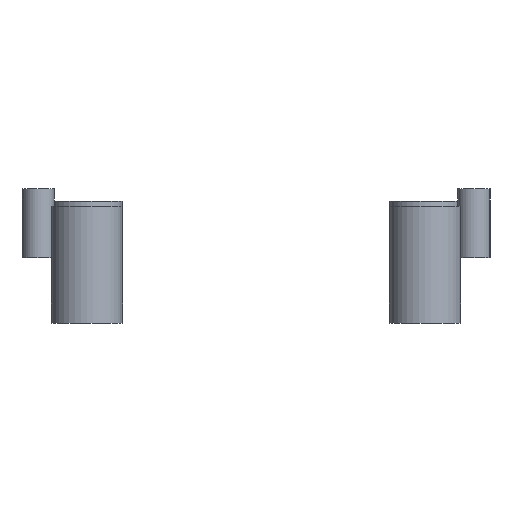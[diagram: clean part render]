
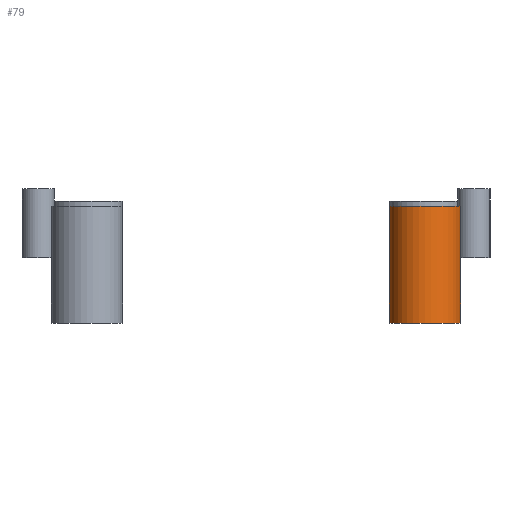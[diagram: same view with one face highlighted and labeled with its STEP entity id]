
A CAD part, left-side view. The second image highlights one B-rep face of the part: STEP entity #79.
In plain terms, the highlighted cylindrical face has radius 69.85 mm (diameter 139.7 mm), a full revolution.
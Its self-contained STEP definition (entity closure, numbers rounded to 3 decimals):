
#79 = ADVANCED_FACE('',(#80),#93,.T.);
#80 = FACE_BOUND('',#81,.T.);
#81 = EDGE_LOOP('',(#82,#116,#139,#166));
#82 = ORIENTED_EDGE('',*,*,#83,.F.);
#83 = EDGE_CURVE('',#84,#84,#86,.T.);
#84 = VERTEX_POINT('',#85);
#85 = CARTESIAN_POINT('',(3369.85,-330.,1086.036));
#86 = SURFACE_CURVE('',#87,(#92,#104),.PCURVE_S1.);
#87 = CIRCLE('',#88,69.85);
#88 = AXIS2_PLACEMENT_3D('',#89,#90,#91);
#89 = CARTESIAN_POINT('',(3300.,-330.,1086.036));
#90 = DIRECTION('',(0.,0.,1.));
#91 = DIRECTION('',(1.,0.,-0.));
#92 = PCURVE('',#93,#98);
#93 = CYLINDRICAL_SURFACE('',#94,69.85);
#94 = AXIS2_PLACEMENT_3D('',#95,#96,#97);
#95 = CARTESIAN_POINT('',(3300.,-330.,858.));
#96 = DIRECTION('',(0.,0.,1.));
#97 = DIRECTION('',(1.,0.,-0.));
#98 = DEFINITIONAL_REPRESENTATION('',(#99),#103);
#99 = LINE('',#100,#101);
#100 = CARTESIAN_POINT('',(0.,228.036));
#101 = VECTOR('',#102,1.);
#102 = DIRECTION('',(1.,0.));
#103 = ( GEOMETRIC_REPRESENTATION_CONTEXT(2) 
PARAMETRIC_REPRESENTATION_CONTEXT() REPRESENTATION_CONTEXT('2D SPACE',''
  ) );
#104 = PCURVE('',#105,#110);
#105 = PLANE('',#106);
#106 = AXIS2_PLACEMENT_3D('',#107,#108,#109);
#107 = CARTESIAN_POINT('',(3300.,-330.,1086.036));
#108 = DIRECTION('',(0.,0.,1.));
#109 = DIRECTION('',(1.,0.,-0.));
#110 = DEFINITIONAL_REPRESENTATION('',(#111),#115);
#111 = CIRCLE('',#112,69.85);
#112 = AXIS2_PLACEMENT_2D('',#113,#114);
#113 = CARTESIAN_POINT('',(0.,0.));
#114 = DIRECTION('',(1.,0.));
#115 = ( GEOMETRIC_REPRESENTATION_CONTEXT(2) 
PARAMETRIC_REPRESENTATION_CONTEXT() REPRESENTATION_CONTEXT('2D SPACE',''
  ) );
#116 = ORIENTED_EDGE('',*,*,#117,.F.);
#117 = EDGE_CURVE('',#118,#84,#120,.T.);
#118 = VERTEX_POINT('',#119);
#119 = CARTESIAN_POINT('',(3369.85,-330.,858.));
#120 = SEAM_CURVE('',#121,(#125,#132),.PCURVE_S1.);
#121 = LINE('',#122,#123);
#122 = CARTESIAN_POINT('',(3369.85,-330.,858.));
#123 = VECTOR('',#124,1.);
#124 = DIRECTION('',(0.,0.,1.));
#125 = PCURVE('',#93,#126);
#126 = DEFINITIONAL_REPRESENTATION('',(#127),#131);
#127 = LINE('',#128,#129);
#128 = CARTESIAN_POINT('',(6.283,-0.));
#129 = VECTOR('',#130,1.);
#130 = DIRECTION('',(0.,1.));
#131 = ( GEOMETRIC_REPRESENTATION_CONTEXT(2) 
PARAMETRIC_REPRESENTATION_CONTEXT() REPRESENTATION_CONTEXT('2D SPACE',''
  ) );
#132 = PCURVE('',#93,#133);
#133 = DEFINITIONAL_REPRESENTATION('',(#134),#138);
#134 = LINE('',#135,#136);
#135 = CARTESIAN_POINT('',(0.,-0.));
#136 = VECTOR('',#137,1.);
#137 = DIRECTION('',(0.,1.));
#138 = ( GEOMETRIC_REPRESENTATION_CONTEXT(2) 
PARAMETRIC_REPRESENTATION_CONTEXT() REPRESENTATION_CONTEXT('2D SPACE',''
  ) );
#139 = ORIENTED_EDGE('',*,*,#140,.T.);
#140 = EDGE_CURVE('',#118,#118,#141,.T.);
#141 = SURFACE_CURVE('',#142,(#147,#154),.PCURVE_S1.);
#142 = CIRCLE('',#143,69.85);
#143 = AXIS2_PLACEMENT_3D('',#144,#145,#146);
#144 = CARTESIAN_POINT('',(3300.,-330.,858.));
#145 = DIRECTION('',(0.,0.,1.));
#146 = DIRECTION('',(1.,0.,-0.));
#147 = PCURVE('',#93,#148);
#148 = DEFINITIONAL_REPRESENTATION('',(#149),#153);
#149 = LINE('',#150,#151);
#150 = CARTESIAN_POINT('',(0.,0.));
#151 = VECTOR('',#152,1.);
#152 = DIRECTION('',(1.,0.));
#153 = ( GEOMETRIC_REPRESENTATION_CONTEXT(2) 
PARAMETRIC_REPRESENTATION_CONTEXT() REPRESENTATION_CONTEXT('2D SPACE',''
  ) );
#154 = PCURVE('',#155,#160);
#155 = PLANE('',#156);
#156 = AXIS2_PLACEMENT_3D('',#157,#158,#159);
#157 = CARTESIAN_POINT('',(3300.,-330.,858.));
#158 = DIRECTION('',(0.,0.,1.));
#159 = DIRECTION('',(1.,0.,-0.));
#160 = DEFINITIONAL_REPRESENTATION('',(#161),#165);
#161 = CIRCLE('',#162,69.85);
#162 = AXIS2_PLACEMENT_2D('',#163,#164);
#163 = CARTESIAN_POINT('',(0.,0.));
#164 = DIRECTION('',(1.,0.));
#165 = ( GEOMETRIC_REPRESENTATION_CONTEXT(2) 
PARAMETRIC_REPRESENTATION_CONTEXT() REPRESENTATION_CONTEXT('2D SPACE',''
  ) );
#166 = ORIENTED_EDGE('',*,*,#117,.T.);
